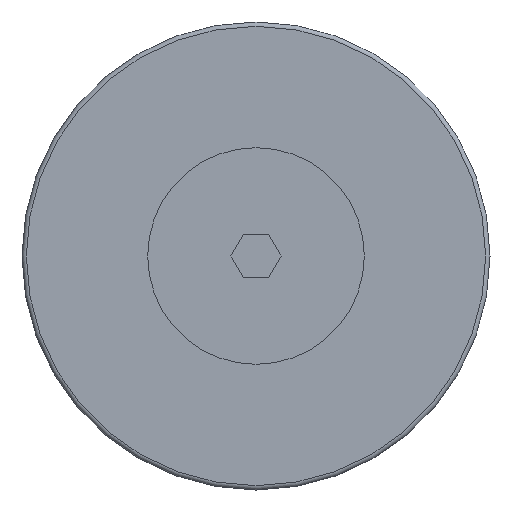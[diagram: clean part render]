
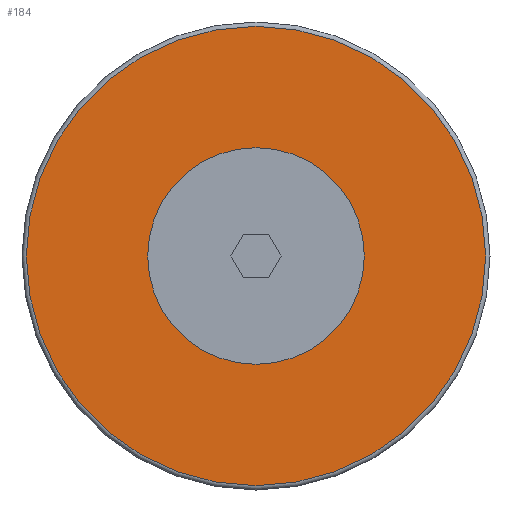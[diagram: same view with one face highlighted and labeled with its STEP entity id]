
A CAD part, front view. The second image highlights one B-rep face of the part: STEP entity #184.
In plain terms, the highlighted planar face has unit normal (0, -1, 0).
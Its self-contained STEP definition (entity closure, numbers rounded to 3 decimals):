
#184=ADVANCED_FACE('',(#263,#264),#265,.F.);
#263=FACE_BOUND('',#402,.T.);
#264=FACE_OUTER_BOUND('',#403,.T.);
#265=PLANE('',#404);
#402=EDGE_LOOP('',(#598));
#403=EDGE_LOOP('',(#599));
#404=AXIS2_PLACEMENT_3D('',#600,#601,#602);
#598=ORIENTED_EDGE('',*,*,#939,.F.);
#599=ORIENTED_EDGE('',*,*,#949,.T.);
#600=CARTESIAN_POINT('',(-28.75,-33.,0.));
#601=DIRECTION('',(0.0,1.0,0.0));
#602=DIRECTION('',(0.0,0.0,1.0));
#939=EDGE_CURVE('',#1075,#1075,#1076,.T.);
#949=EDGE_CURVE('',#1091,#1091,#1092,.T.);
#1075=VERTEX_POINT('',#1286);
#1076=CIRCLE('',#1287,12.5);
#1091=VERTEX_POINT('',#1311);
#1092=CIRCLE('',#1312,26.5);
#1286=CARTESIAN_POINT('',(-2.25,-33.,-12.5));
#1287=AXIS2_PLACEMENT_3D('',#1647,#1648,#1649);
#1311=CARTESIAN_POINT('',(-2.25,-33.,-26.5));
#1312=AXIS2_PLACEMENT_3D('',#1659,#1660,#1661);
#1647=CARTESIAN_POINT('',(-2.25,-33.,0.));
#1648=DIRECTION('',(0.0,-1.0,0.0));
#1649=DIRECTION('',(0.0,0.0,-1.0));
#1659=CARTESIAN_POINT('',(-2.25,-33.,0.));
#1660=DIRECTION('',(0.0,-1.0,0.0));
#1661=DIRECTION('',(0.0,0.0,-1.0));
